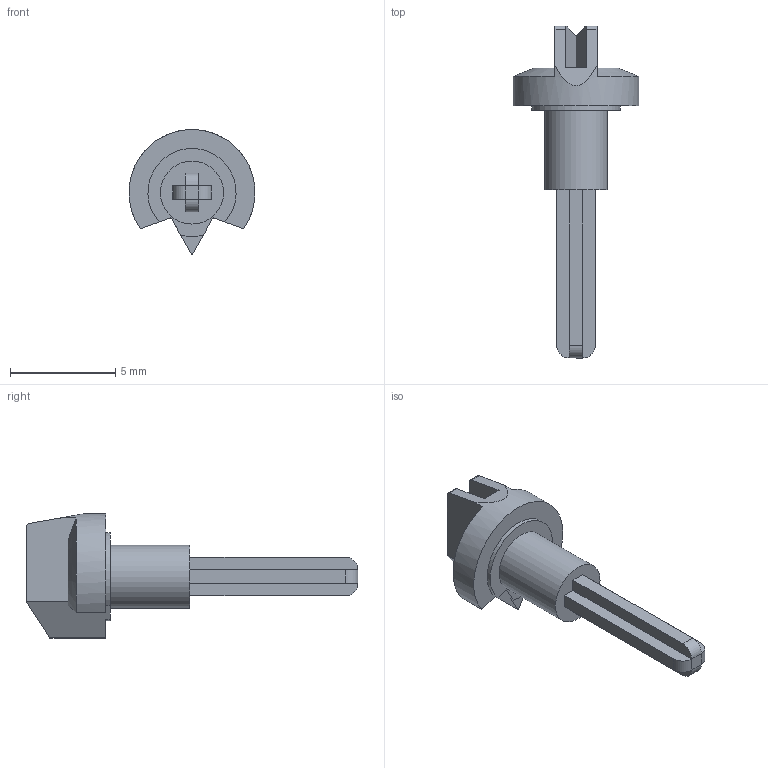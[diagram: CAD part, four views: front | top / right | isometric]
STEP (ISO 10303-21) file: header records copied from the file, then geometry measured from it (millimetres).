
FILE_DESCRIPTION(('STEP AP203'), '1');
FILE_NAME('ÃËÖÈ.753711.053 Ðó÷êà (25.06.19)', '2020-01-10T07:14:08', ('Dydelka'), (''), 'ASCON STEP Converter 1.3', 'ASCON Math Kernel', '');
FILE_SCHEMA(('CONFIG_CONTROL_DESIGN'));
Length unit declared in the file: millimetre
Products named in the file (1): 襠窏.753711.053
Bounding box: 5.99 x 15.8 x 5.95 mm (x, y, z)
Volume: 96 mm3; surface area: 218.2 mm2
Topology: 1 solids, 1 shells, 49 faces, 129 edges, 84 vertices
Faces by surface type: plane 34, cylinder 13, cone 2
Full cylindrical faces by diameter (mm): 3 x1
Entity records: 1954 total; most frequent: CARTESIAN_POINT 308, ORIENTED_EDGE 256, DIRECTION 246, EDGE_CURVE 128, LINE 90, VECTOR 90, VERTEX_POINT 84, AXIS2_PLACEMENT_3D 78
